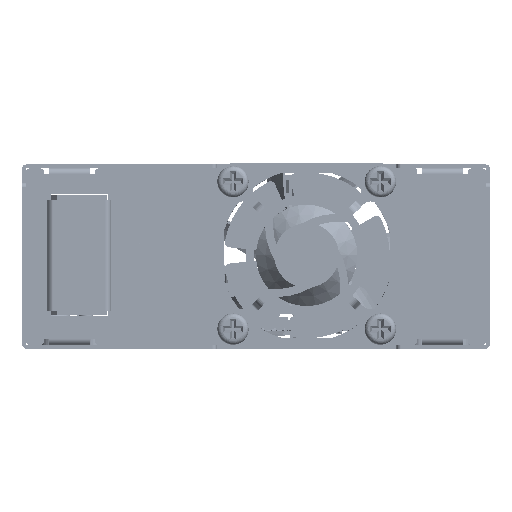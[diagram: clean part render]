
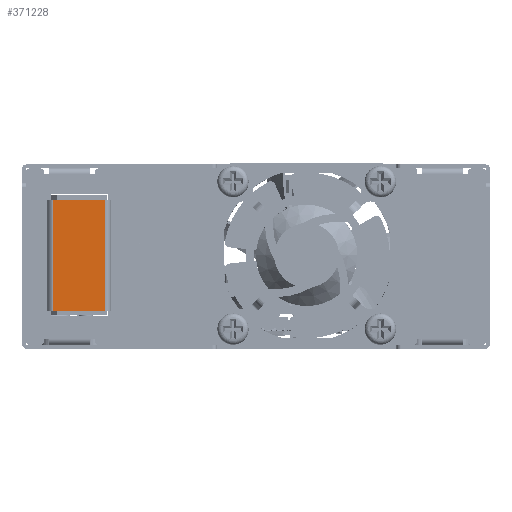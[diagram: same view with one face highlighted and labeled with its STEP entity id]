
A CAD part, left-side view. The second image highlights one B-rep face of the part: STEP entity #371228.
In plain terms, the highlighted planar face has unit normal (-1, 0, 0) as drawn and (0, 1, 0) by its records, which use the part's own axes.
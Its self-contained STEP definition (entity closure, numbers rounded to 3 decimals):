
#23667 = DIRECTION ( 'NONE',  ( 0., 1., 0. ) ) ;
#29459 = VERTEX_POINT ( 'NONE', #427114 ) ;
#40025 = VECTOR ( 'NONE', #236604, 1000. ) ;
#42883 = CARTESIAN_POINT ( 'NONE',  ( 19.66, 0., 5.577 ) ) ;
#58185 = EDGE_CURVE ( 'NONE', #181775, #29459, #287179, .T. ) ;
#67297 = LINE ( 'NONE', #313206, #40025 ) ;
#69533 = DIRECTION ( 'NONE',  ( 0., 0., -1. ) ) ;
#72466 = VECTOR ( 'NONE', #388401, 1000. ) ;
#88203 = CARTESIAN_POINT ( 'NONE',  ( 19.66, 0., -5.577 ) ) ;
#103712 = VERTEX_POINT ( 'NONE', #409414 ) ;
#112804 = LINE ( 'NONE', #42883, #72466 ) ;
#123060 = DIRECTION ( 'NONE',  ( 0., 0., 1. ) ) ;
#150798 = EDGE_CURVE ( 'NONE', #29459, #103712, #67297, .T. ) ;
#168930 = LINE ( 'NONE', #412840, #215549 ) ;
#181775 = VERTEX_POINT ( 'NONE', #88203 ) ;
#185682 = CARTESIAN_POINT ( 'NONE',  ( 19.66, 0., -5.577 ) ) ;
#197594 = FACE_OUTER_BOUND ( 'NONE', #261932, .T. ) ;
#204738 = ORIENTED_EDGE ( 'NONE', *, *, #58185, .T. ) ;
#211513 = AXIS2_PLACEMENT_3D ( 'NONE', #432549, #23667, #123060 ) ;
#215549 = VECTOR ( 'NONE', #69533, 1000. ) ;
#223586 = EDGE_CURVE ( 'NONE', #103712, #271971, #112804, .T. ) ;
#236604 = DIRECTION ( 'NONE',  ( 0., 0., 1. ) ) ;
#250774 = ORIENTED_EDGE ( 'NONE', *, *, #252361, .T. ) ;
#252361 = EDGE_CURVE ( 'NONE', #271971, #181775, #168930, .T. ) ;
#261932 = EDGE_LOOP ( 'NONE', ( #204738, #306503, #439582, #250774 ) ) ;
#271971 = VERTEX_POINT ( 'NONE', #370899 ) ;
#287179 = LINE ( 'NONE', #185682, #302743 ) ;
#289421 = DIRECTION ( 'NONE',  ( -1., 0., 0. ) ) ;
#302743 = VECTOR ( 'NONE', #289421, 1000. ) ;
#306503 = ORIENTED_EDGE ( 'NONE', *, *, #150798, .T. ) ;
#313206 = CARTESIAN_POINT ( 'NONE',  ( -4.42, 0., -5.577 ) ) ;
#366929 = PLANE ( 'NONE',  #211513 ) ;
#370899 = CARTESIAN_POINT ( 'NONE',  ( 19.66, 0., 5.577 ) ) ;
#371228 = ADVANCED_FACE ( 'NONE', ( #197594 ), #366929, .T. ) ;
#388401 = DIRECTION ( 'NONE',  ( 1., 0., 0. ) ) ;
#409414 = CARTESIAN_POINT ( 'NONE',  ( -4.42, 0., 5.577 ) ) ;
#412840 = CARTESIAN_POINT ( 'NONE',  ( 19.66, 0., -5.577 ) ) ;
#427114 = CARTESIAN_POINT ( 'NONE',  ( -4.42, 0., -5.577 ) ) ;
#432549 = CARTESIAN_POINT ( 'NONE',  ( 19.66, 0., -5.577 ) ) ;
#439582 = ORIENTED_EDGE ( 'NONE', *, *, #223586, .T. ) ;
